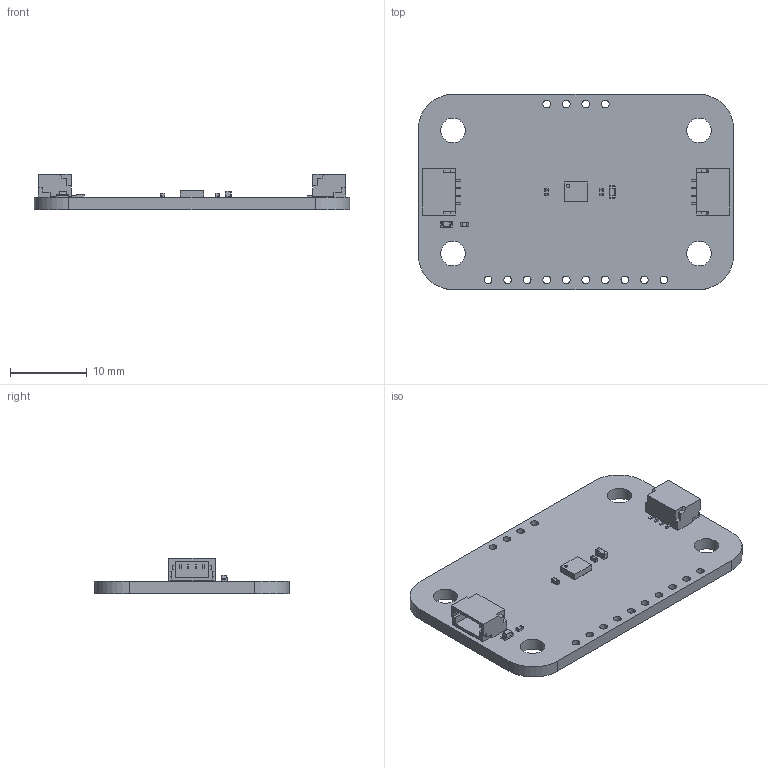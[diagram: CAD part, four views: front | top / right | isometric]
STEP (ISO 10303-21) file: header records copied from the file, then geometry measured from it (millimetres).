
FILE_DESCRIPTION(('Open CASCADE Model'),'2;1');
FILE_NAME('Open CASCADE Shape Model','2024-06-27T16:11:06',('Author'),( 'Open CASCADE'),'Open CASCADE STEP processor 7.5','Open CASCADE 7.5' ,'Unknown');
FILE_SCHEMA(('AUTOMOTIVE_DESIGN { 1 0 10303 214 1 1 1 1 }'));
Length unit declared in the file: millimetre
Products named in the file (21): PCB; Board; Open CASCADE STEP translator 7.5 9.1.1; U1; 8253858464; Open CASCADE STEP translator 6.8 38.1; Body; Open CASCADE STEP translator 6.8 38.2.1; Pin_Shape; C3; CAP-0402; C2; CAP-0603; C1; J1; SM04B-SRSS-TB_RGB12040119; J2; D1; HSMx-190; R1; RES-0402
Assembly tree (35 placements, depth 5):
  PCB
    Board
      Open CASCADE STEP translator 7.5 9.1.1
    U1
      8253858464
        Open CASCADE STEP translator 6.8 38.1
        Body
          Open CASCADE STEP translator 6.8 38.2.1
        Pin_Shape  x14
    C3
      CAP-0402
    C2
      CAP-0603
    C1
      CAP-0402
    J1
      SM04B-SRSS-TB_RGB12040119
    J2
      SM04B-SRSS-TB_RGB12040119
    D1
      HSMx-190
    R1
      RES-0402
Bounding box: 41 x 25.36 x 4.58 mm (x, y, z)
Volume: 1669.9 mm3; surface area: 2669.4 mm2
Topology: 23 solids, 24 shells, 581 faces, 1409 edges, 859 vertices
Faces by surface type: plane 403, cylinder 122, sphere 28, bspline 24, torus 4
Full cylindrical faces by diameter (mm): 0.07 x1, 0.388 x1, 1 x14, 3.2 x4
Entity records: 11936 total; most frequent: CARTESIAN_POINT 2274, DIRECTION 1788, ORIENTED_EDGE 1737, EDGE_CURVE 869, LINE 638, VECTOR 638, AXIS2_PLACEMENT_3D 575, VERTEX_POINT 537
